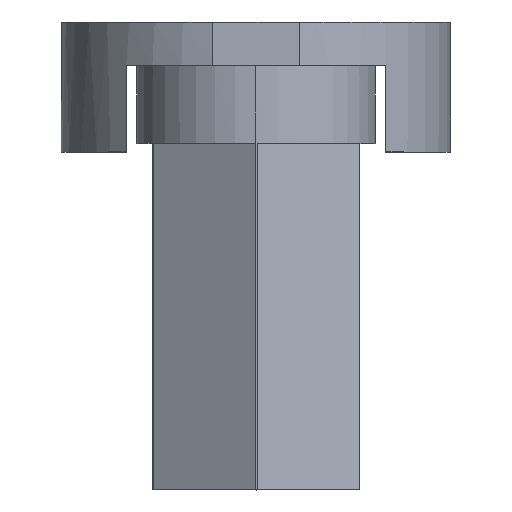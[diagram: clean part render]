
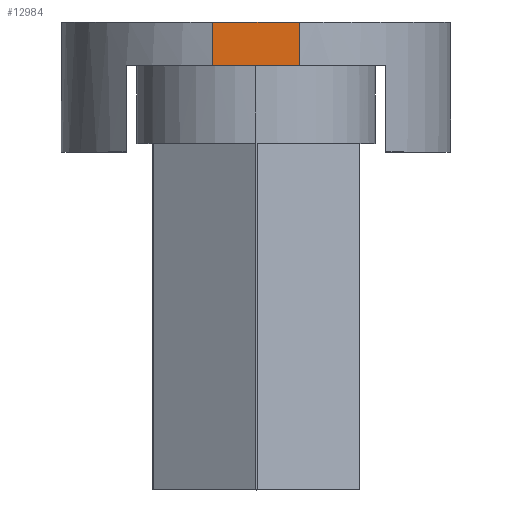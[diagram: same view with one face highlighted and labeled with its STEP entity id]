
A CAD part, top view. The second image highlights one B-rep face of the part: STEP entity #12984.
In plain terms, the highlighted planar face has unit normal (0, 0, 1).
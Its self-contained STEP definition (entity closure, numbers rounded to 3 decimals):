
#130 = PLANE('',#131);
#131 = AXIS2_PLACEMENT_3D('',#132,#133,#134);
#132 = CARTESIAN_POINT('',(0.219,-2.5,-0.75));
#133 = DIRECTION('',(0.,-1.,0.));
#134 = DIRECTION('',(-0.,0.,1.));
#10966 = VERTEX_POINT('',#10967);
#10967 = CARTESIAN_POINT('',(2.5,-2.5,12.75));
#10976 = PLANE('',#10977);
#10977 = AXIS2_PLACEMENT_3D('',#10978,#10979,#10980);
#10978 = CARTESIAN_POINT('',(2.5,-1.25,11.859));
#10979 = DIRECTION('',(1.,0.,0.));
#10980 = DIRECTION('',(0.,0.,1.));
#11059 = VERTEX_POINT('',#11060);
#11060 = CARTESIAN_POINT('',(2.5,0.,12.75));
#11074 = PLANE('',#11075);
#11075 = AXIS2_PLACEMENT_3D('',#11076,#11077,#11078);
#11076 = CARTESIAN_POINT('',(0.,0.,-0.556));
#11077 = DIRECTION('',(0.,1.,0.));
#11078 = DIRECTION('',(0.,0.,-1.));
#11086 = EDGE_CURVE('',#11059,#10966,#11087,.T.);
#11087 = SURFACE_CURVE('',#11088,(#11092,#11099),.PCURVE_S1.);
#11088 = LINE('',#11089,#11090);
#11089 = CARTESIAN_POINT('',(2.5,-1.25,12.75));
#11090 = VECTOR('',#11091,1.);
#11091 = DIRECTION('',(0.,-1.,0.));
#11092 = PCURVE('',#10976,#11093);
#11093 = DEFINITIONAL_REPRESENTATION('',(#11094),#11098);
#11094 = LINE('',#11095,#11096);
#11095 = CARTESIAN_POINT('',(0.891,0.));
#11096 = VECTOR('',#11097,1.);
#11097 = DIRECTION('',(0.,1.));
#11098 = ( GEOMETRIC_REPRESENTATION_CONTEXT(2) 
PARAMETRIC_REPRESENTATION_CONTEXT() REPRESENTATION_CONTEXT('2D SPACE',''
  ) );
#11099 = PCURVE('',#11100,#11105);
#11100 = PLANE('',#11101);
#11101 = AXIS2_PLACEMENT_3D('',#11102,#11103,#11104);
#11102 = CARTESIAN_POINT('',(0.,-1.25,12.75));
#11103 = DIRECTION('',(0.,0.,1.));
#11104 = DIRECTION('',(0.,1.,0.));
#11105 = DEFINITIONAL_REPRESENTATION('',(#11106),#11110);
#11106 = LINE('',#11107,#11108);
#11107 = CARTESIAN_POINT('',(0.,-2.5));
#11108 = VECTOR('',#11109,1.);
#11109 = DIRECTION('',(-1.,0.));
#11110 = ( GEOMETRIC_REPRESENTATION_CONTEXT(2) 
PARAMETRIC_REPRESENTATION_CONTEXT() REPRESENTATION_CONTEXT('2D SPACE',''
  ) );
#11237 = EDGE_CURVE('',#10966,#11238,#11240,.T.);
#11238 = VERTEX_POINT('',#11239);
#11239 = CARTESIAN_POINT('',(-2.5,-2.5,12.75));
#11240 = SURFACE_CURVE('',#11241,(#11245,#11252),.PCURVE_S1.);
#11241 = LINE('',#11242,#11243);
#11242 = CARTESIAN_POINT('',(-0.,-2.5,12.75));
#11243 = VECTOR('',#11244,1.);
#11244 = DIRECTION('',(-1.,0.,0.));
#11245 = PCURVE('',#130,#11246);
#11246 = DEFINITIONAL_REPRESENTATION('',(#11247),#11251);
#11247 = LINE('',#11248,#11249);
#11248 = CARTESIAN_POINT('',(13.5,0.219));
#11249 = VECTOR('',#11250,1.);
#11250 = DIRECTION('',(0.,1.));
#11251 = ( GEOMETRIC_REPRESENTATION_CONTEXT(2) 
PARAMETRIC_REPRESENTATION_CONTEXT() REPRESENTATION_CONTEXT('2D SPACE',''
  ) );
#11252 = PCURVE('',#11100,#11253);
#11253 = DEFINITIONAL_REPRESENTATION('',(#11254),#11258);
#11254 = LINE('',#11255,#11256);
#11255 = CARTESIAN_POINT('',(-1.25,0.));
#11256 = VECTOR('',#11257,1.);
#11257 = DIRECTION('',(0.,1.));
#11258 = ( GEOMETRIC_REPRESENTATION_CONTEXT(2) 
PARAMETRIC_REPRESENTATION_CONTEXT() REPRESENTATION_CONTEXT('2D SPACE',''
  ) );
#11276 = PLANE('',#11277);
#11277 = AXIS2_PLACEMENT_3D('',#11278,#11279,#11280);
#11278 = CARTESIAN_POINT('',(-2.5,-1.25,11.859));
#11279 = DIRECTION('',(1.,0.,0.));
#11280 = DIRECTION('',(0.,0.,1.));
#12210 = VERTEX_POINT('',#12211);
#12211 = CARTESIAN_POINT('',(-2.5,0.,12.75));
#12232 = EDGE_CURVE('',#12210,#11059,#12233,.T.);
#12233 = SURFACE_CURVE('',#12234,(#12238,#12245),.PCURVE_S1.);
#12234 = LINE('',#12235,#12236);
#12235 = CARTESIAN_POINT('',(0.,0.,12.75));
#12236 = VECTOR('',#12237,1.);
#12237 = DIRECTION('',(1.,0.,0.));
#12238 = PCURVE('',#11074,#12239);
#12239 = DEFINITIONAL_REPRESENTATION('',(#12240),#12244);
#12240 = LINE('',#12241,#12242);
#12241 = CARTESIAN_POINT('',(-13.306,0.));
#12242 = VECTOR('',#12243,1.);
#12243 = DIRECTION('',(0.,-1.));
#12244 = ( GEOMETRIC_REPRESENTATION_CONTEXT(2) 
PARAMETRIC_REPRESENTATION_CONTEXT() REPRESENTATION_CONTEXT('2D SPACE',''
  ) );
#12245 = PCURVE('',#11100,#12246);
#12246 = DEFINITIONAL_REPRESENTATION('',(#12247),#12251);
#12247 = LINE('',#12248,#12249);
#12248 = CARTESIAN_POINT('',(1.25,0.));
#12249 = VECTOR('',#12250,1.);
#12250 = DIRECTION('',(0.,-1.));
#12251 = ( GEOMETRIC_REPRESENTATION_CONTEXT(2) 
PARAMETRIC_REPRESENTATION_CONTEXT() REPRESENTATION_CONTEXT('2D SPACE',''
  ) );
#12900 = EDGE_CURVE('',#11238,#12210,#12901,.T.);
#12901 = SURFACE_CURVE('',#12902,(#12906,#12913),.PCURVE_S1.);
#12902 = LINE('',#12903,#12904);
#12903 = CARTESIAN_POINT('',(-2.5,-1.25,12.75));
#12904 = VECTOR('',#12905,1.);
#12905 = DIRECTION('',(-0.,1.,-0.));
#12906 = PCURVE('',#11276,#12907);
#12907 = DEFINITIONAL_REPRESENTATION('',(#12908),#12912);
#12908 = LINE('',#12909,#12910);
#12909 = CARTESIAN_POINT('',(0.891,0.));
#12910 = VECTOR('',#12911,1.);
#12911 = DIRECTION('',(0.,-1.));
#12912 = ( GEOMETRIC_REPRESENTATION_CONTEXT(2) 
PARAMETRIC_REPRESENTATION_CONTEXT() REPRESENTATION_CONTEXT('2D SPACE',''
  ) );
#12913 = PCURVE('',#11100,#12914);
#12914 = DEFINITIONAL_REPRESENTATION('',(#12915),#12919);
#12915 = LINE('',#12916,#12917);
#12916 = CARTESIAN_POINT('',(0.,2.5));
#12917 = VECTOR('',#12918,1.);
#12918 = DIRECTION('',(1.,0.));
#12919 = ( GEOMETRIC_REPRESENTATION_CONTEXT(2) 
PARAMETRIC_REPRESENTATION_CONTEXT() REPRESENTATION_CONTEXT('2D SPACE',''
  ) );
#12984 = ADVANCED_FACE('',(#12985),#11100,.T.);
#12985 = FACE_BOUND('',#12986,.T.);
#12986 = EDGE_LOOP('',(#12987,#12988,#12989,#12990));
#12987 = ORIENTED_EDGE('',*,*,#11237,.F.);
#12988 = ORIENTED_EDGE('',*,*,#11086,.F.);
#12989 = ORIENTED_EDGE('',*,*,#12232,.F.);
#12990 = ORIENTED_EDGE('',*,*,#12900,.F.);
